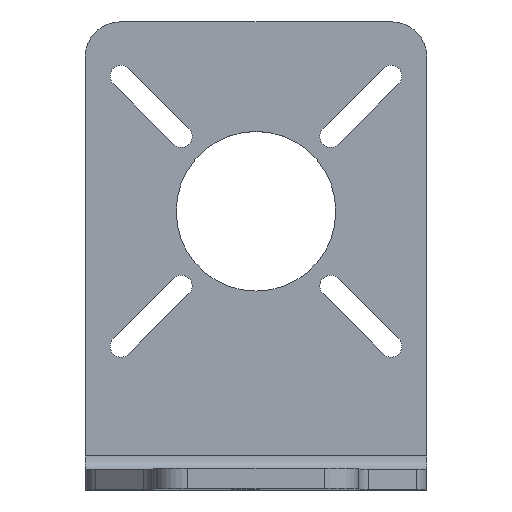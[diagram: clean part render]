
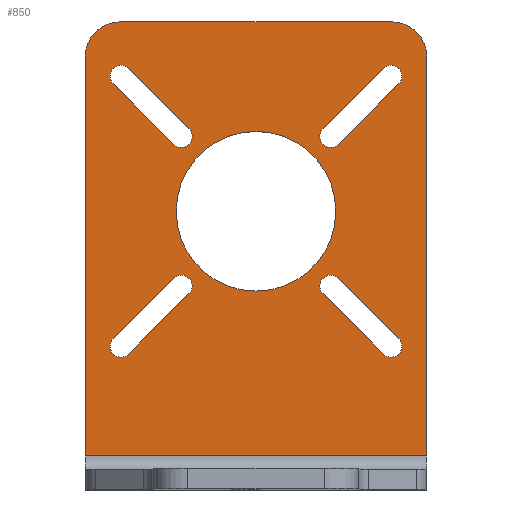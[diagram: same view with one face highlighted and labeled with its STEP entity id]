
A CAD part, top view. The second image highlights one B-rep face of the part: STEP entity #850.
In plain terms, the highlighted planar face has unit normal (0, 0, 1).
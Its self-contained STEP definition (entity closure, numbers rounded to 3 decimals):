
#17=FACE_BOUND('',#163,.T.);
#18=FACE_BOUND('',#164,.T.);
#19=FACE_BOUND('',#165,.T.);
#20=FACE_BOUND('',#166,.T.);
#21=FACE_BOUND('',#167,.T.);
#27=CIRCLE('',#888,1.6);
#29=CIRCLE('',#892,1.6);
#31=CIRCLE('',#896,1.6);
#33=CIRCLE('',#900,1.6);
#35=CIRCLE('',#904,1.6);
#37=CIRCLE('',#908,1.6);
#59=CIRCLE('',#945,5.);
#61=CIRCLE('',#948,5.);
#62=CIRCLE('',#949,1.6);
#63=CIRCLE('',#950,1.6);
#64=CIRCLE('',#951,11.7);
#117=FACE_OUTER_BOUND('',#162,.T.);
#162=EDGE_LOOP('',(#699,#700,#701,#702,#703,#704));
#163=EDGE_LOOP('',(#705,#706,#707,#708));
#164=EDGE_LOOP('',(#709,#710,#711,#712));
#165=EDGE_LOOP('',(#713,#714,#715,#716));
#166=EDGE_LOOP('',(#717,#718,#719,#720));
#167=EDGE_LOOP('',(#721));
#188=LINE('',#1228,#269);
#193=LINE('',#1242,#274);
#196=LINE('',#1252,#277);
#201=LINE('',#1266,#282);
#204=LINE('',#1276,#285);
#209=LINE('',#1290,#290);
#237=LINE('',#1376,#318);
#247=LINE('',#1407,#328);
#251=LINE('',#1421,#332);
#252=LINE('',#1423,#333);
#253=LINE('',#1426,#334);
#254=LINE('',#1430,#335);
#269=VECTOR('',#975,10.);
#274=VECTOR('',#988,10.);
#277=VECTOR('',#999,10.);
#282=VECTOR('',#1012,10.);
#285=VECTOR('',#1023,10.);
#290=VECTOR('',#1036,10.);
#318=VECTOR('',#1114,10.);
#328=VECTOR('',#1146,10.);
#332=VECTOR('',#1160,10.);
#333=VECTOR('',#1163,10.);
#334=VECTOR('',#1164,10.);
#335=VECTOR('',#1167,10.);
#350=VERTEX_POINT('',#1226);
#351=VERTEX_POINT('',#1227);
#354=VERTEX_POINT('',#1235);
#356=VERTEX_POINT('',#1241);
#358=VERTEX_POINT('',#1250);
#359=VERTEX_POINT('',#1251);
#362=VERTEX_POINT('',#1259);
#364=VERTEX_POINT('',#1265);
#366=VERTEX_POINT('',#1274);
#367=VERTEX_POINT('',#1275);
#370=VERTEX_POINT('',#1283);
#372=VERTEX_POINT('',#1289);
#404=VERTEX_POINT('',#1373);
#405=VERTEX_POINT('',#1375);
#414=VERTEX_POINT('',#1404);
#415=VERTEX_POINT('',#1406);
#418=VERTEX_POINT('',#1414);
#420=VERTEX_POINT('',#1420);
#421=VERTEX_POINT('',#1424);
#422=VERTEX_POINT('',#1425);
#423=VERTEX_POINT('',#1427);
#424=VERTEX_POINT('',#1429);
#425=VERTEX_POINT('',#1432);
#432=EDGE_CURVE('',#350,#351,#188,.T.);
#436=EDGE_CURVE('',#351,#354,#27,.T.);
#439=EDGE_CURVE('',#354,#356,#193,.T.);
#442=EDGE_CURVE('',#356,#350,#29,.T.);
#444=EDGE_CURVE('',#358,#359,#196,.T.);
#448=EDGE_CURVE('',#359,#362,#31,.T.);
#451=EDGE_CURVE('',#362,#364,#201,.T.);
#454=EDGE_CURVE('',#364,#358,#33,.T.);
#456=EDGE_CURVE('',#366,#367,#204,.T.);
#460=EDGE_CURVE('',#367,#370,#35,.T.);
#463=EDGE_CURVE('',#370,#372,#209,.T.);
#466=EDGE_CURVE('',#372,#366,#37,.T.);
#506=EDGE_CURVE('',#404,#405,#237,.T.);
#522=EDGE_CURVE('',#414,#415,#247,.T.);
#526=EDGE_CURVE('',#418,#404,#59,.T.);
#529=EDGE_CURVE('',#420,#418,#251,.T.);
#530=EDGE_CURVE('',#415,#420,#61,.T.);
#531=EDGE_CURVE('',#405,#414,#252,.T.);
#532=EDGE_CURVE('',#421,#422,#253,.T.);
#533=EDGE_CURVE('',#422,#423,#62,.T.);
#534=EDGE_CURVE('',#423,#424,#254,.T.);
#535=EDGE_CURVE('',#424,#421,#63,.T.);
#536=EDGE_CURVE('',#425,#425,#64,.T.);
#699=ORIENTED_EDGE('',*,*,#526,.F.);
#700=ORIENTED_EDGE('',*,*,#529,.F.);
#701=ORIENTED_EDGE('',*,*,#530,.F.);
#702=ORIENTED_EDGE('',*,*,#522,.F.);
#703=ORIENTED_EDGE('',*,*,#531,.F.);
#704=ORIENTED_EDGE('',*,*,#506,.F.);
#705=ORIENTED_EDGE('',*,*,#439,.T.);
#706=ORIENTED_EDGE('',*,*,#442,.T.);
#707=ORIENTED_EDGE('',*,*,#432,.T.);
#708=ORIENTED_EDGE('',*,*,#436,.T.);
#709=ORIENTED_EDGE('',*,*,#451,.T.);
#710=ORIENTED_EDGE('',*,*,#454,.T.);
#711=ORIENTED_EDGE('',*,*,#444,.T.);
#712=ORIENTED_EDGE('',*,*,#448,.T.);
#713=ORIENTED_EDGE('',*,*,#463,.T.);
#714=ORIENTED_EDGE('',*,*,#466,.T.);
#715=ORIENTED_EDGE('',*,*,#456,.T.);
#716=ORIENTED_EDGE('',*,*,#460,.T.);
#717=ORIENTED_EDGE('',*,*,#532,.T.);
#718=ORIENTED_EDGE('',*,*,#533,.T.);
#719=ORIENTED_EDGE('',*,*,#534,.T.);
#720=ORIENTED_EDGE('',*,*,#535,.T.);
#721=ORIENTED_EDGE('',*,*,#536,.T.);
#815=PLANE('',#947);
#850=ADVANCED_FACE('',(#117,#17,#18,#19,#20,#21),#815,.T.);
#888=AXIS2_PLACEMENT_3D('',#1236,#981,#982);
#892=AXIS2_PLACEMENT_3D('',#1247,#993,#994);
#896=AXIS2_PLACEMENT_3D('',#1260,#1005,#1006);
#900=AXIS2_PLACEMENT_3D('',#1271,#1017,#1018);
#904=AXIS2_PLACEMENT_3D('',#1284,#1029,#1030);
#908=AXIS2_PLACEMENT_3D('',#1295,#1041,#1042);
#945=AXIS2_PLACEMENT_3D('',#1415,#1153,#1154);
#947=AXIS2_PLACEMENT_3D('',#1419,#1158,#1159);
#948=AXIS2_PLACEMENT_3D('',#1422,#1161,#1162);
#949=AXIS2_PLACEMENT_3D('',#1428,#1165,#1166);
#950=AXIS2_PLACEMENT_3D('',#1431,#1168,#1169);
#951=AXIS2_PLACEMENT_3D('',#1433,#1170,#1171);
#975=DIRECTION('',(0.707,-0.707,0.));
#981=DIRECTION('center_axis',(0.,0.,
-1.));
#982=DIRECTION('ref_axis',(-0.707,-0.707,0.));
#988=DIRECTION('',(-0.707,0.707,0.));
#993=DIRECTION('center_axis',(0.,0.,
-1.));
#994=DIRECTION('ref_axis',(0.707,0.707,0.));
#999=DIRECTION('',(-0.707,-0.707,0.));
#1005=DIRECTION('center_axis',(0.,0.,
-1.));
#1006=DIRECTION('ref_axis',(-0.707,0.707,0.));
#1012=DIRECTION('',(0.707,0.707,0.));
#1017=DIRECTION('center_axis',(0.,0.,
-1.));
#1018=DIRECTION('ref_axis',(0.707,-0.707,0.));
#1023=DIRECTION('',(-0.707,0.707,0.));
#1029=DIRECTION('center_axis',(0.,0.,
-1.));
#1030=DIRECTION('ref_axis',(0.707,0.707,0.));
#1036=DIRECTION('',(0.707,-0.707,0.));
#1041=DIRECTION('center_axis',(0.,0.,
-1.));
#1042=DIRECTION('ref_axis',(-0.707,-0.707,0.));
#1114=DIRECTION('',(0.,-1.,0.));
#1146=DIRECTION('',(0.,1.,0.));
#1153=DIRECTION('center_axis',(0.,0.,
-1.));
#1154=DIRECTION('ref_axis',(0.707,0.707,0.));
#1158=DIRECTION('center_axis',(0.,0.,
1.));
#1159=DIRECTION('ref_axis',(1.,0.,0.));
#1160=DIRECTION('',(1.,0.,0.));
#1161=DIRECTION('center_axis',(0.,0.,
-1.));
#1162=DIRECTION('ref_axis',(-0.707,0.707,0.));
#1163=DIRECTION('',(-1.,0.,0.));
#1164=DIRECTION('',(-0.707,-0.707,0.));
#1165=DIRECTION('center_axis',(0.,0.,
-1.));
#1166=DIRECTION('ref_axis',(-0.707,0.707,0.));
#1167=DIRECTION('',(0.707,0.707,0.));
#1168=DIRECTION('center_axis',(0.,0.,
-1.));
#1169=DIRECTION('ref_axis',(0.707,-0.707,0.));
#1170=DIRECTION('center_axis',(0.,0.,
-1.));
#1171=DIRECTION('ref_axis',(-1.,0.,0.));
#1226=CARTESIAN_POINT('',(-18.668,27.49,1.5));
#1227=CARTESIAN_POINT('',(-9.829,18.652,1.5));
#1228=CARTESIAN_POINT('',(-7.128,15.951,1.5));
#1235=CARTESIAN_POINT('',(-12.092,16.389,1.5));
#1236=CARTESIAN_POINT('Origin',(-10.96,17.52,1.5));
#1241=CARTESIAN_POINT('',(-20.93,25.228,1.5));
#1242=CARTESIAN_POINT('',(-4.971,9.269,1.5));
#1247=CARTESIAN_POINT('Origin',(-19.799,26.359,1.5));
#1250=CARTESIAN_POINT('',(20.93,25.228,1.5));
#1251=CARTESIAN_POINT('',(12.092,16.389,1.5));
#1252=CARTESIAN_POINT('',(9.391,13.688,1.5));
#1259=CARTESIAN_POINT('',(9.829,18.652,1.5));
#1260=CARTESIAN_POINT('Origin',(10.96,17.52,1.5));
#1265=CARTESIAN_POINT('',(18.668,27.49,1.5));
#1266=CARTESIAN_POINT('',(2.709,11.531,1.5));
#1271=CARTESIAN_POINT('Origin',(19.799,26.359,1.5));
#1274=CARTESIAN_POINT('',(18.668,-14.37,1.5));
#1275=CARTESIAN_POINT('',(9.829,-5.532,1.5));
#1276=CARTESIAN_POINT('',(10.408,-6.111,1.5));
#1283=CARTESIAN_POINT('',(12.092,-3.269,1.5));
#1284=CARTESIAN_POINT('Origin',(10.96,-4.4,1.5));
#1289=CARTESIAN_POINT('',(20.93,-12.108,1.5));
#1290=CARTESIAN_POINT('',(8.251,0.571,1.5));
#1295=CARTESIAN_POINT('Origin',(19.799,-13.239,1.5));
#1373=CARTESIAN_POINT('',(25.,29.3,1.5));
#1375=CARTESIAN_POINT('',(25.,-29.3,1.5));
#1376=CARTESIAN_POINT('',(25.,34.3,1.5));
#1404=CARTESIAN_POINT('',(-25.,-29.3,1.5));
#1406=CARTESIAN_POINT('',(-25.,29.3,1.5));
#1407=CARTESIAN_POINT('',(-25.,-34.3,1.5));
#1414=CARTESIAN_POINT('',(20.,34.3,1.5));
#1415=CARTESIAN_POINT('Origin',(20.,29.3,1.5));
#1419=CARTESIAN_POINT('Origin',(0.,0.,
1.5));
#1420=CARTESIAN_POINT('',(-20.,34.3,1.5));
#1421=CARTESIAN_POINT('',(-25.,34.3,1.5));
#1422=CARTESIAN_POINT('Origin',(-20.,29.3,1.5));
#1423=CARTESIAN_POINT('',(-12.5,-29.3,1.5));
#1424=CARTESIAN_POINT('',(-9.829,-5.532,1.5));
#1425=CARTESIAN_POINT('',(-18.668,-14.37,1.5));
#1426=CARTESIAN_POINT('',(-5.989,-1.691,1.5));
#1427=CARTESIAN_POINT('',(-20.93,-12.108,1.5));
#1428=CARTESIAN_POINT('Origin',(-19.799,-13.239,1.5));
#1429=CARTESIAN_POINT('',(-12.092,-3.269,1.5));
#1430=CARTESIAN_POINT('',(-12.671,-3.848,1.5));
#1431=CARTESIAN_POINT('Origin',(-10.96,-4.4,1.5));
#1432=CARTESIAN_POINT('',(11.7,6.56,1.5));
#1433=CARTESIAN_POINT('Origin',(0.,6.56,1.5));
